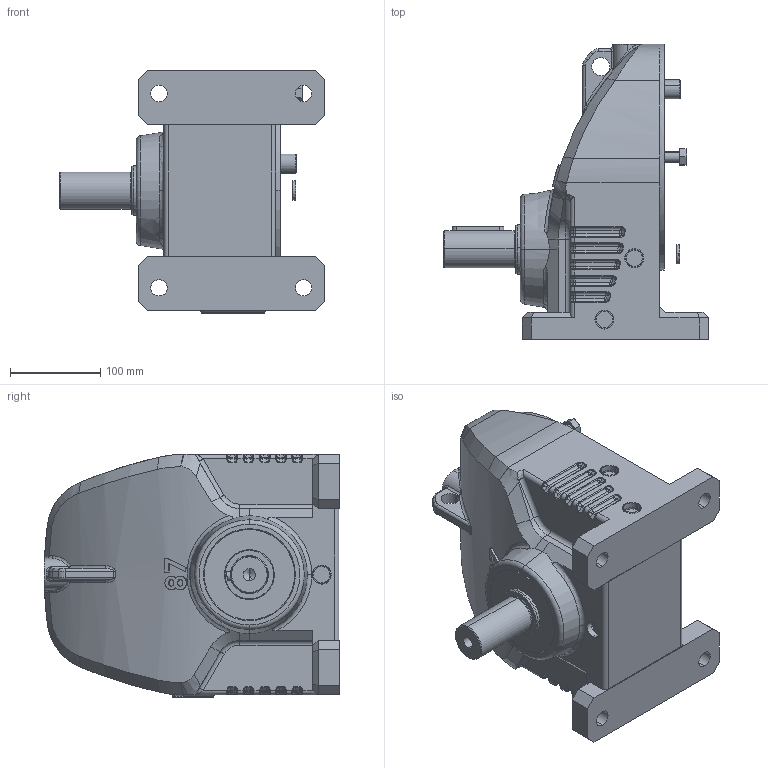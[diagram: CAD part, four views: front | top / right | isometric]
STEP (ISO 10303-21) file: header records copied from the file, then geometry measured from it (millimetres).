
FILE_DESCRIPTION (( 'STEP AP203' ), '1' );
FILE_NAME ('RX087HF-56C.STEP', '2015-03-16T05:37:33', ( 'user' ), ( '' ), 'SwSTEP 2.0', 'SolidWorks 2012', '' );
FILE_SCHEMA (( 'CONFIG_CONTROL_DESIGN' ));
Length unit declared in the file: millimetre
Products named in the file (28): RX087HF-56C; JSPC040050005A; PKD3_8057; PCA040_JIS B 2804 Shaft use 40; PBA6308_SKF - 6308 - 10,DE,NC,10_68; PCB100_PCB100; PSS055100121; PBA6309_SKF - 6309 - 10,DE,NC,10_68; JKGB09799L_JKGB09799L; 087法蘭入力組合56C_16; PKD0505015; PCA016_PCA016; P103_JKGA1622R; PWS12; PTBA12040; PSS040055081; PBA6008; PTAA08030; KNGH143Txx; KFGG143T; JHGA08701; PJB04; PCA045; PKD1208025; KEGX087; JCHX087
Assembly tree (24 placements, depth 3):
  RX087HF-56C
    JCHX087
    KEGX087
    PKD1208025
    PCA045
    PJB04  x5
    087法蘭入力組合56C_16
      PTBA12040
      PWS12
      P103_JKGA1622R
      PCA016_PCA016
      PKD0505015
      PJB04
    JKGB09799L_JKGB09799L
    PBA6309_SKF - 6309 - 10,DE,NC,10_68
    PSS055100121
    PCB100_PCB100
    PBA6308_SKF - 6308 - 10,DE,NC,10_68
    PCA040_JIS B 2804 Shaft use 40
    PKD3_8057
    JSPC040050005A
  PTBA12040
  PWS12
  PSS040055081
  PBA6008
Bounding box: 293 x 327.01 x 269 mm (x, y, z)
Volume: 3593473.7 mm3; surface area: 805906.5 mm2
Topology: 23 solids, 23 shells, 1234 faces, 3207 edges, 1954 vertices
Faces by surface type: cylinder 401, plane 303, torus 200, bspline 135, cone 123, sphere 72
Entity records: 48659 total; most frequent: CARTESIAN_POINT 18793, ORIENTED_EDGE 5818, DIRECTION 5655, EDGE_CURVE 2909, AXIS2_PLACEMENT_3D 2371, VERTEX_POINT 1794, CIRCLE 1334, EDGE_LOOP 1245
